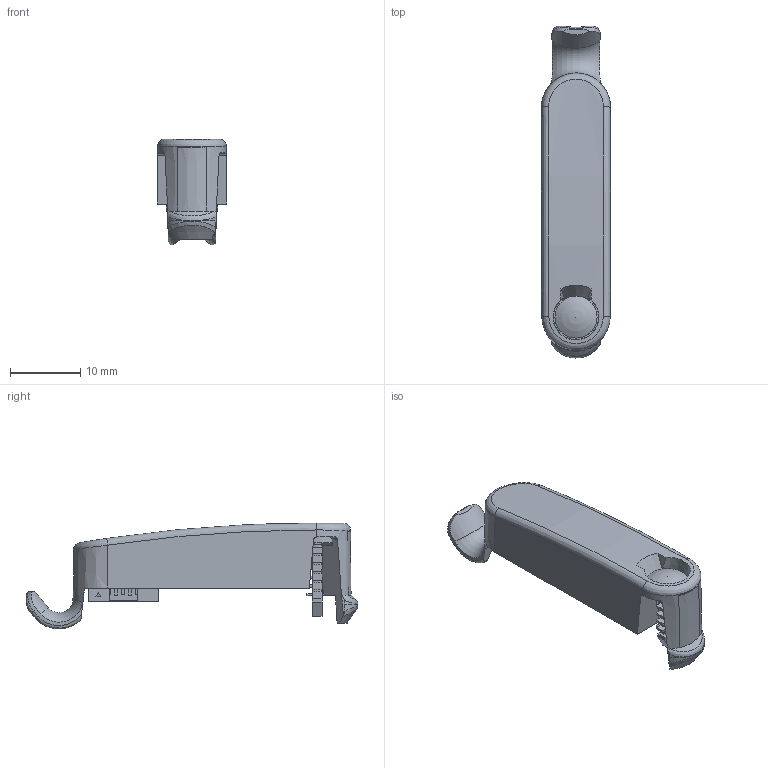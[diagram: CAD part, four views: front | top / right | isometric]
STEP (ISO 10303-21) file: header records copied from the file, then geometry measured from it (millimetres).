
FILE_DESCRIPTION(/* description */ (''),/* implementation_level */ '2;1');
FILE_NAME(/* name */ 'C:\Vault_local\Designs\Stock\3D pour clients\préparations\capteur fenetre 2011\PWA11500.stp',/* time_stamp */ '2021-04-07T15:02:32+02:00',/* author */ ('fbros'),/* organization */ (''),/* preprocessor_version */ 'ST-DEVELOPER v17',/* originating_system */ 'Autodesk Inventor 2018',/* authorisation */ '');
FILE_SCHEMA (('AUTOMOTIVE_DESIGN { 1 0 10303 214 3 1 1 }'));
Length unit declared in the file: millimetre
Products named in the file (1): 2D3D 584 connecteur 4 poles
Bounding box: 9.9 x 47.39 x 15.11 mm (x, y, z)
Volume: 2485.8 mm3; surface area: 2767.4 mm2
Topology: 1 solids, 11 shells, 498 faces, 1338 edges, 879 vertices
Faces by surface type: plane 390, cylinder 63, cone 24, bspline 14, sphere 4, torus 3
Full cylindrical faces by diameter (mm): 6 x1
Entity records: 18540 total; most frequent: CARTESIAN_POINT 5550, ORIENTED_EDGE 2674, DIRECTION 2432, EDGE_CURVE 1337, LINE 996, VECTOR 996, VERTEX_POINT 879, AXIS2_PLACEMENT_3D 718
